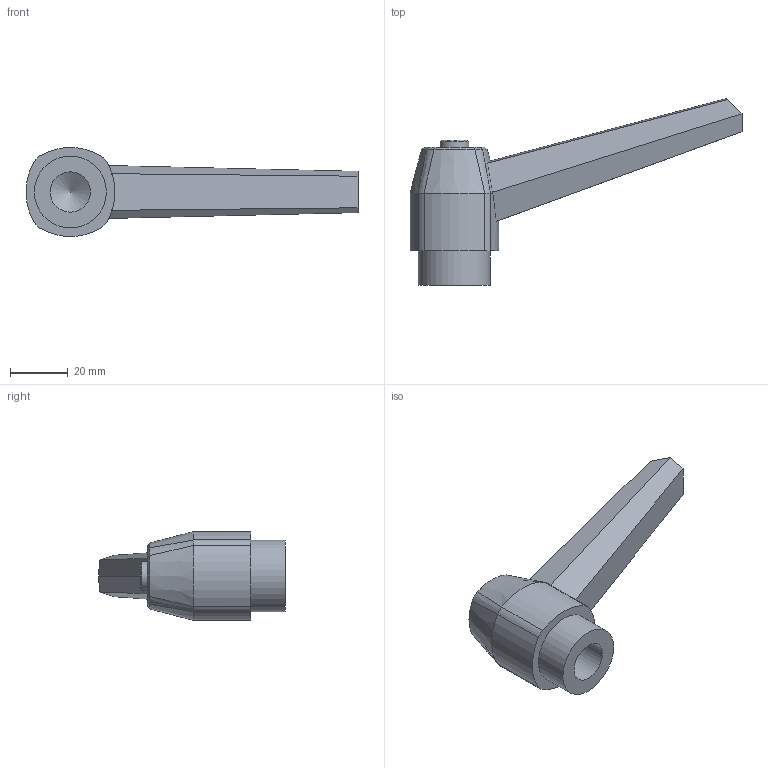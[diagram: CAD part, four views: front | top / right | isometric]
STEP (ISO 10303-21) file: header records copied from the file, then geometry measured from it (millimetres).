
FILE_DESCRIPTION (( 'STEP AP214' ), '1' );
FILE_NAME ('500-100-M16-SW.step', '2022-04-13T07:18:44', ( '' ), ( '' ), 'SwSTEP 2.0', 'SolidWorks 2019', '' );
FILE_SCHEMA (( 'AUTOMOTIVE_DESIGN' ));
Length unit declared in the file: millimetre
Products named in the file (1): 500-100-M16-SW
Bounding box: 115.44 x 64.99 x 30.88 mm (x, y, z)
Volume: 47915.9 mm3; surface area: 11866.2 mm2
Topology: 1 solids, 1 shells, 51 faces, 123 edges, 78 vertices
Faces by surface type: plane 21, cylinder 12, cone 10, bspline 8
Full cylindrical faces by diameter (mm): 10 x1, 12 x1, 14 x1, 25 x1
Entity records: 1664 total; most frequent: CARTESIAN_POINT 569, ORIENTED_EDGE 232, DIRECTION 182, EDGE_CURVE 116, VERTEX_POINT 77, AXIS2_PLACEMENT_3D 74, EDGE_LOOP 61, FACE_OUTER_BOUND 55
